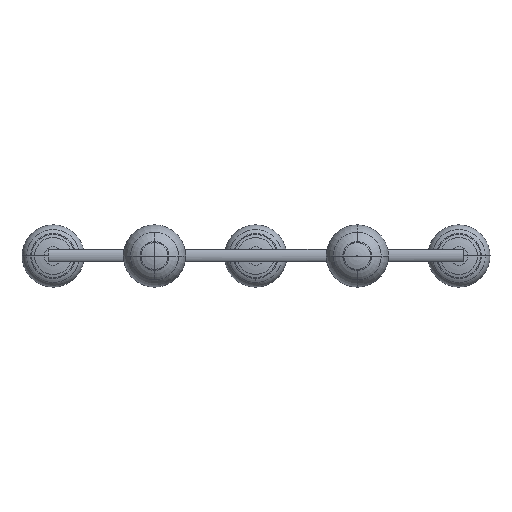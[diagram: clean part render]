
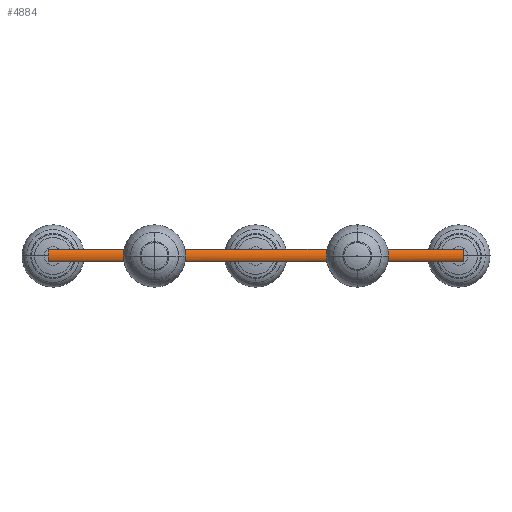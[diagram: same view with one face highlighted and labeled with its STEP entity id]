
A CAD part, front view. The second image highlights one B-rep face of the part: STEP entity #4884.
In plain terms, the highlighted free-form (B-spline) face has degree [2, 1] with [5, 2] control points.
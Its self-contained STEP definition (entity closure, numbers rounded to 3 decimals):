
#204 = CARTESIAN_POINT ( 'NONE',  ( -14424.294, 898.33, 2301.847 ) ) ;
#345 = EDGE_CURVE ( 'NONE', #1236, #7554, #8615, .T. ) ;
#489 = CARTESIAN_POINT ( 'NONE',  ( -13759.294, 898.33, 2301.847 ) ) ;
#1008 = CARTESIAN_POINT ( 'NONE',  ( -13759.294, 898.33, 2301.847 ) ) ;
#1236 = VERTEX_POINT ( 'NONE', #2371 ) ;
#1334 = CARTESIAN_POINT ( 'NONE',  ( -15089.294, 888.33, 2261.847 ) ) ;
#1601 = ORIENTED_EDGE ( 'NONE', *, *, #345, .T. ) ;
#1730 = CARTESIAN_POINT ( 'NONE',  ( -15089.294, 898.33, 2261.847 ) ) ;
#1925 = CARTESIAN_POINT ( 'NONE',  ( -13759.294, 898.33, 2301.847 ) ) ;
#2371 = CARTESIAN_POINT ( 'NONE',  ( -13759.294, 898.33, 2261.847 ) ) ;
#2384 = ORIENTED_EDGE ( 'NONE', *, *, #10951, .T. ) ;
#2409 = CARTESIAN_POINT ( 'NONE',  ( -15089.294, 898.33, 2301.847 ) ) ;
#2765 = CARTESIAN_POINT ( 'NONE',  ( -15089.294, 898.33, 2301.847 ) ) ;
#2864 = EDGE_CURVE ( 'NONE', #7554, #4582, #11390, .T. ) ;
#2886 = CARTESIAN_POINT ( 'NONE',  ( -15089.294, 888.33, 2301.847 ) ) ;
#3568 = CARTESIAN_POINT ( 'NONE',  ( -13759.294, 888.33, 2301.847 ) ) ;
#3683 = VECTOR ( 'NONE', #8522, 1000. ) ;
#3685 = CARTESIAN_POINT ( 'NONE',  ( -13759.294, 888.33, 2281.847 ) ) ;
#3690 = CARTESIAN_POINT ( 'NONE',  ( -13759.294, 898.33, 2261.847 ) ) ;
#3926 = CARTESIAN_POINT ( 'NONE',  ( -15089.294, 898.33, 2261.847 ) ) ;
#4484 = CARTESIAN_POINT ( 'NONE',  ( -13759.294, 888.33, 2281.847 ) ) ;
#4582 = VERTEX_POINT ( 'NONE', #2409 ) ;
#4884 = ADVANCED_FACE ( 'NONE', ( #9450 ), #11658, .T. ) ;
#4927 = VECTOR ( 'NONE', #11483, 1000. ) ;
#5014 = EDGE_CURVE ( 'NONE', #6356, #1236, #9769, .T. ) ;
#5361 =( BOUNDED_CURVE ( )  B_SPLINE_CURVE ( 2, ( #10061, #8169, #9721, #1334, #1730 ),
 .UNSPECIFIED., .F., .T. ) 
 B_SPLINE_CURVE_WITH_KNOTS ( ( 3, 2, 3 ),
 ( 0., 0.024, 0.049 ),
 .UNSPECIFIED. ) 
 CURVE ( )  GEOMETRIC_REPRESENTATION_ITEM ( )  RATIONAL_B_SPLINE_CURVE ( ( 1., 0.707, 1., 0.707, 1. ) ) 
 REPRESENTATION_ITEM ( '' )  );
#5510 = CARTESIAN_POINT ( 'NONE',  ( -15089.294, 888.33, 2261.847 ) ) ;
#6356 = VERTEX_POINT ( 'NONE', #8763 ) ;
#7205 = CARTESIAN_POINT ( 'NONE',  ( -13759.294, 888.33, 2261.847 ) ) ;
#7554 = VERTEX_POINT ( 'NONE', #489 ) ;
#8169 = CARTESIAN_POINT ( 'NONE',  ( -15089.294, 888.33, 2301.847 ) ) ;
#8522 = DIRECTION ( 'NONE',  ( -1., 0., 0. ) ) ;
#8615 =( BOUNDED_CURVE ( )  B_SPLINE_CURVE ( 2, ( #3690, #7205, #4484, #3568, #1925 ),
 .UNSPECIFIED., .F., .F. ) 
 B_SPLINE_CURVE_WITH_KNOTS ( ( 3, 2, 3 ),
 ( 0., 0.024, 0.049 ),
 .UNSPECIFIED. ) 
 CURVE ( )  GEOMETRIC_REPRESENTATION_ITEM ( )  RATIONAL_B_SPLINE_CURVE ( ( 1., 0.707, 1., 0.707, 1. ) ) 
 REPRESENTATION_ITEM ( '' )  );
#8730 = CARTESIAN_POINT ( 'NONE',  ( -14424.294, 898.33, 2261.847 ) ) ;
#8763 = CARTESIAN_POINT ( 'NONE',  ( -15089.294, 898.33, 2261.847 ) ) ;
#8820 = EDGE_LOOP ( 'NONE', ( #2384, #10896, #1601, #12016 ) ) ;
#9270 = CARTESIAN_POINT ( 'NONE',  ( -13759.294, 888.33, 2261.847 ) ) ;
#9450 = FACE_OUTER_BOUND ( 'NONE', #8820, .T. ) ;
#9721 = CARTESIAN_POINT ( 'NONE',  ( -15089.294, 888.33, 2281.847 ) ) ;
#9769 = LINE ( 'NONE', #8730, #4927 ) ;
#10061 = CARTESIAN_POINT ( 'NONE',  ( -15089.294, 898.33, 2301.847 ) ) ;
#10309 = CARTESIAN_POINT ( 'NONE',  ( -15089.294, 888.33, 2281.847 ) ) ;
#10896 = ORIENTED_EDGE ( 'NONE', *, *, #5014, .T. ) ;
#10951 = EDGE_CURVE ( 'NONE', #4582, #6356, #5361, .T. ) ;
#11101 = CARTESIAN_POINT ( 'NONE',  ( -13759.294, 888.33, 2301.847 ) ) ;
#11223 = CARTESIAN_POINT ( 'NONE',  ( -13759.294, 898.33, 2261.847 ) ) ;
#11390 = LINE ( 'NONE', #204, #3683 ) ;
#11483 = DIRECTION ( 'NONE',  ( 1., 0., 0. ) ) ;
#11658 =( BOUNDED_SURFACE ( )  B_SPLINE_SURFACE ( 2, 1, ( 
 ( #11223, #3926 ),
 ( #9270, #5510 ),
 ( #3685, #10309 ),
 ( #11101, #2886 ),
 ( #1008, #2765 ) ),
 .UNSPECIFIED., .F., .F., .T. ) 
 B_SPLINE_SURFACE_WITH_KNOTS ( ( 3, 2, 3 ),
 ( 2, 2 ),
 ( 0., 1.571, 3.142 ),
 ( 0., 1. ),
 .UNSPECIFIED. ) 
 GEOMETRIC_REPRESENTATION_ITEM ( )  RATIONAL_B_SPLINE_SURFACE ( (
 ( 1., 1.),
 ( 0.707, 0.707),
 ( 1., 1.),
 ( 0.707, 0.707),
 ( 1., 1.) ) ) 
 REPRESENTATION_ITEM ( '' )  SURFACE ( )  );
#12016 = ORIENTED_EDGE ( 'NONE', *, *, #2864, .T. ) ;
